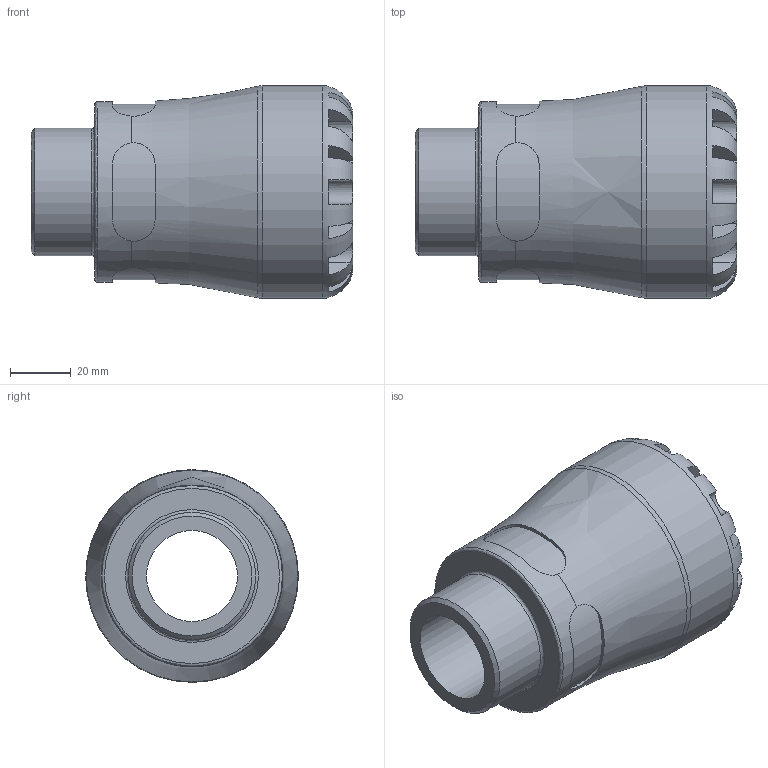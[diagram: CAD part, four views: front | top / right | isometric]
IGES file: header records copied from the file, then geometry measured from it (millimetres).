
Global section: file name: 100200040013_190200040013.ipt; native system: Autodesk Inventor 2015; preprocessor: unknown; author: KIM; date: 20170727.143949; units: millimetre
Bounding box: 106 x 70 x 70 mm (x, y, z)
Volume: 186930.5 mm3; surface area: 38628.6 mm2
Topology: 1 solids, 1 shells, 100 faces, 268 edges, 172 vertices
Faces by surface type: plane 60, revolution 24, cylinder 15, cone 1
Full cylindrical faces by diameter (mm): 41.91 x1, 59.5 x1, 70 x1
